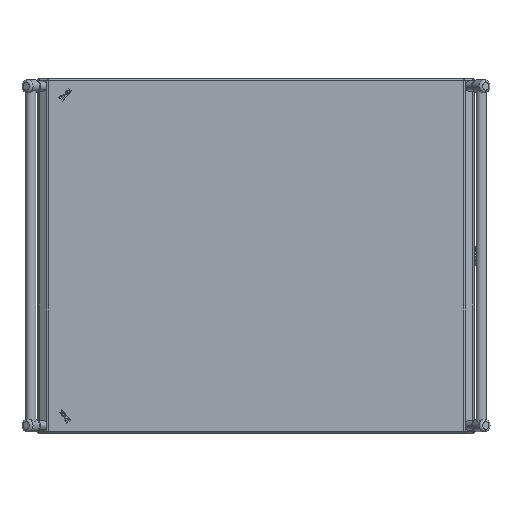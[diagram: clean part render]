
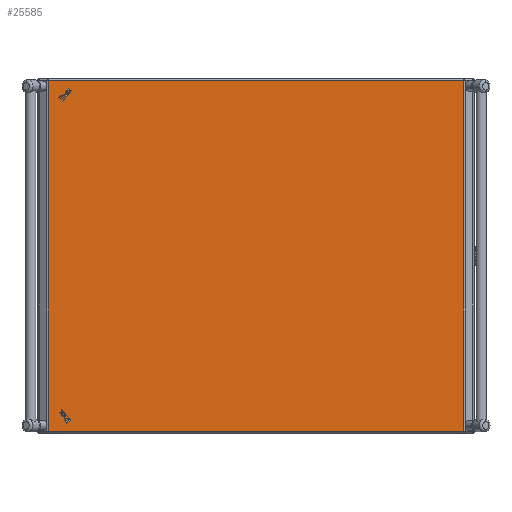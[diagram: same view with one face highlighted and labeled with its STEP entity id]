
A CAD part, top view. The second image highlights one B-rep face of the part: STEP entity #25585.
In plain terms, the highlighted planar face has unit normal (0, 0, 1).
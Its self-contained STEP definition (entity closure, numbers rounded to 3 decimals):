
#1168 = DIRECTION ( 'NONE',  ( -1., 0., 0. ) ) ;
#1703 = CARTESIAN_POINT ( 'NONE',  ( -322.75, 271.35, 26.5 ) ) ;
#2243 = DIRECTION ( 'NONE',  ( 1., 0., 0. ) ) ;
#3051 = LINE ( 'NONE', #19482, #17388 ) ;
#3700 = EDGE_LOOP ( 'NONE', ( #25798, #10637, #9655, #18879 ) ) ;
#4054 = LINE ( 'NONE', #1703, #19142 ) ;
#5927 = DIRECTION ( 'NONE',  ( 1., 0., 0. ) ) ;
#9655 = ORIENTED_EDGE ( 'NONE', *, *, #13984, .T. ) ;
#10637 = ORIENTED_EDGE ( 'NONE', *, *, #18885, .T. ) ;
#11045 = DIRECTION ( 'NONE',  ( 0., -1., 0. ) ) ;
#13984 = EDGE_CURVE ( 'NONE', #26923, #35388, #32425, .T. ) ;
#16336 = FACE_OUTER_BOUND ( 'NONE', #3700, .T. ) ;
#17388 = VECTOR ( 'NONE', #5927, 1000. ) ;
#17886 = EDGE_CURVE ( 'NONE', #35388, #22112, #4054, .T. ) ;
#18879 = ORIENTED_EDGE ( 'NONE', *, *, #17886, .T. ) ;
#18885 = EDGE_CURVE ( 'NONE', #30332, #26923, #3051, .T. ) ;
#19142 = VECTOR ( 'NONE', #1168, 1000. ) ;
#19482 = CARTESIAN_POINT ( 'NONE',  ( 322.75, -271.35, 26.5 ) ) ;
#20130 = CARTESIAN_POINT ( 'NONE',  ( -321.794, 271.35, 26.5 ) ) ;
#20658 = VECTOR ( 'NONE', #11045, 1000. ) ;
#22112 = VERTEX_POINT ( 'NONE', #20130 ) ;
#22218 = CARTESIAN_POINT ( 'NONE',  ( -321.794, -271.35, 26.5 ) ) ;
#22858 = CARTESIAN_POINT ( 'NONE',  ( 321.794, -271.35, 26.5 ) ) ;
#23811 = CARTESIAN_POINT ( 'NONE',  ( 321.794, 271.35, 26.5 ) ) ;
#25585 = ADVANCED_FACE ( 'NONE', ( #16336 ), #29753, .T. ) ;
#25798 = ORIENTED_EDGE ( 'NONE', *, *, #31947, .T. ) ;
#26923 = VERTEX_POINT ( 'NONE', #22858 ) ;
#27021 = DIRECTION ( 'NONE',  ( 0., 0., 1. ) ) ;
#28425 = LINE ( 'NONE', #33324, #20658 ) ;
#29753 = PLANE ( 'NONE',  #30993 ) ;
#30065 = CARTESIAN_POINT ( 'NONE',  ( 321.794, -274.35, 26.5 ) ) ;
#30098 = CARTESIAN_POINT ( 'NONE',  ( 336.85, -274.35, 26.5 ) ) ;
#30332 = VERTEX_POINT ( 'NONE', #22218 ) ;
#30423 = DIRECTION ( 'NONE',  ( 0., 1., 0. ) ) ;
#30993 = AXIS2_PLACEMENT_3D ( 'NONE', #30098, #27021, #2243 ) ;
#31947 = EDGE_CURVE ( 'NONE', #22112, #30332, #28425, .T. ) ;
#32061 = VECTOR ( 'NONE', #30423, 1000. ) ;
#32425 = LINE ( 'NONE', #30065, #32061 ) ;
#33324 = CARTESIAN_POINT ( 'NONE',  ( -321.794, -274.35, 26.5 ) ) ;
#35388 = VERTEX_POINT ( 'NONE', #23811 ) ;
